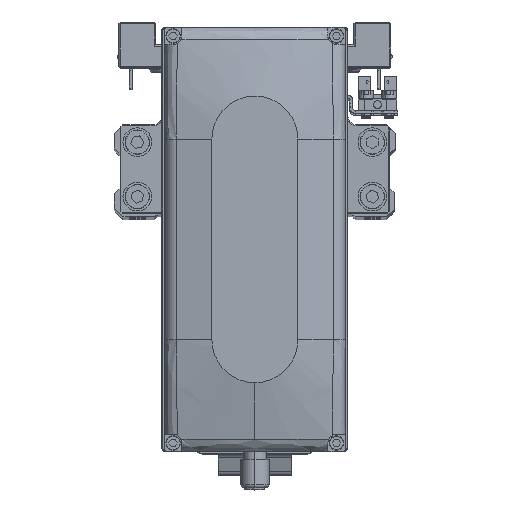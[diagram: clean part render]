
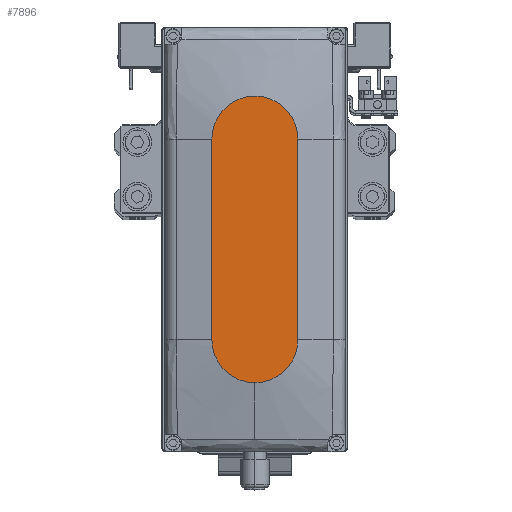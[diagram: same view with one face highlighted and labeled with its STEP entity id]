
A CAD part, top view. The second image highlights one B-rep face of the part: STEP entity #7896.
In plain terms, the highlighted planar face has unit normal (0, 0, 1).
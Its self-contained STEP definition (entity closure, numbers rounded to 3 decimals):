
#131 = AXIS2_PLACEMENT_3D ( 'NONE', #24646, #37281, #8975 ) ;
#374 = AXIS2_PLACEMENT_3D ( 'NONE', #7221, #19812, #32418 ) ;
#2294 = CARTESIAN_POINT ( 'NONE',  ( -35., -15., 35. ) ) ;
#3201 = CARTESIAN_POINT ( 'NONE',  ( 50., 0., 35. ) ) ;
#3605 = ORIENTED_EDGE ( 'NONE', *, *, #33855, .T. ) ;
#5813 = EDGE_CURVE ( 'NONE', #34180, #11944, #30590, .T. ) ;
#6343 = DIRECTION ( 'NONE',  ( 0., 0., 1. ) ) ;
#7221 = CARTESIAN_POINT ( 'NONE',  ( 35., 0., 35. ) ) ;
#7896 = ADVANCED_FACE ( 'NONE', ( #40378 ), #12075, .T. ) ;
#7916 = VECTOR ( 'NONE', #22689, 1000. ) ;
#8975 = DIRECTION ( 'NONE',  ( 1., 0., 0. ) ) ;
#9067 = DIRECTION ( 'NONE',  ( 0., 0., 1. ) ) ;
#9194 = CARTESIAN_POINT ( 'NONE',  ( -35., -15., 35. ) ) ;
#10123 = CARTESIAN_POINT ( 'NONE',  ( -35., 15., 35. ) ) ;
#11944 = VERTEX_POINT ( 'NONE', #17910 ) ;
#12075 = PLANE ( 'NONE',  #131 ) ;
#12646 = ORIENTED_EDGE ( 'NONE', *, *, #25620, .T. ) ;
#14226 = VERTEX_POINT ( 'NONE', #3201 ) ;
#14901 = DIRECTION ( 'NONE',  ( 1., 0., 0. ) ) ;
#15283 = AXIS2_PLACEMENT_3D ( 'NONE', #37377, #9067, #21634 ) ;
#16795 = ORIENTED_EDGE ( 'NONE', *, *, #21990, .T. ) ;
#17059 = CIRCLE ( 'NONE', #22313, 15. ) ;
#17910 = CARTESIAN_POINT ( 'NONE',  ( 35., -15., 35. ) ) ;
#18181 = CIRCLE ( 'NONE', #374, 15. ) ;
#18938 = DIRECTION ( 'NONE',  ( 1., 0., 0. ) ) ;
#19812 = DIRECTION ( 'NONE',  ( 0., 0., 1. ) ) ;
#21089 = ORIENTED_EDGE ( 'NONE', *, *, #27236, .T. ) ;
#21634 = DIRECTION ( 'NONE',  ( 1., 0., 0. ) ) ;
#21990 = EDGE_CURVE ( 'NONE', #11944, #14226, #18181, .T. ) ;
#22313 = AXIS2_PLACEMENT_3D ( 'NONE', #34657, #6343, #18938 ) ;
#22689 = DIRECTION ( 'NONE',  ( -1., 0., 0. ) ) ;
#24646 = CARTESIAN_POINT ( 'NONE',  ( 0., 0., 35. ) ) ;
#25620 = EDGE_CURVE ( 'NONE', #33819, #27546, #38425, .T. ) ;
#27236 = EDGE_CURVE ( 'NONE', #14226, #33819, #33094, .T. ) ;
#27546 = VERTEX_POINT ( 'NONE', #33608 ) ;
#28005 = CARTESIAN_POINT ( 'NONE',  ( 35., 15., 35. ) ) ;
#30590 = LINE ( 'NONE', #2294, #32269 ) ;
#32269 = VECTOR ( 'NONE', #14901, 1000. ) ;
#32418 = DIRECTION ( 'NONE',  ( 1., 0., 0. ) ) ;
#33094 = CIRCLE ( 'NONE', #15283, 15. ) ;
#33421 = ORIENTED_EDGE ( 'NONE', *, *, #5813, .T. ) ;
#33608 = CARTESIAN_POINT ( 'NONE',  ( -35., 15., 35. ) ) ;
#33819 = VERTEX_POINT ( 'NONE', #28005 ) ;
#33855 = EDGE_CURVE ( 'NONE', #27546, #34180, #17059, .T. ) ;
#34180 = VERTEX_POINT ( 'NONE', #9194 ) ;
#34657 = CARTESIAN_POINT ( 'NONE',  ( -35., 0., 35. ) ) ;
#36542 = EDGE_LOOP ( 'NONE', ( #12646, #3605, #33421, #16795, #21089 ) ) ;
#37281 = DIRECTION ( 'NONE',  ( 0., 0., 1. ) ) ;
#37377 = CARTESIAN_POINT ( 'NONE',  ( 35., 0., 35. ) ) ;
#38425 = LINE ( 'NONE', #10123, #7916 ) ;
#40378 = FACE_OUTER_BOUND ( 'NONE', #36542, .T. ) ;
